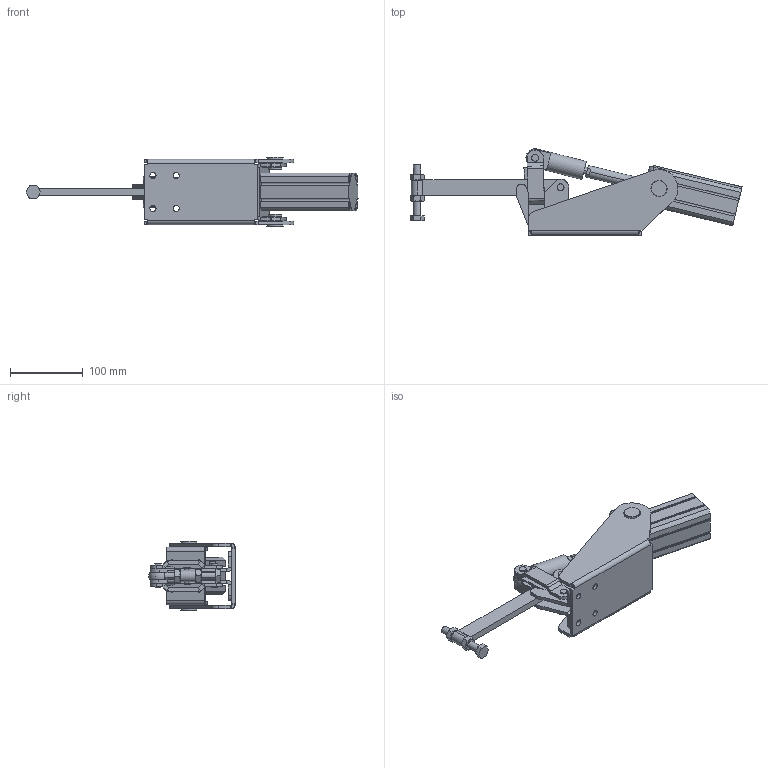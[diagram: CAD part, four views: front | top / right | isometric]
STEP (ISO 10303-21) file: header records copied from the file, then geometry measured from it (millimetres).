
FILE_DESCRIPTION (( 'STEP AP203' ), '1' );
FILE_NAME ('KF-111 DS P.STEP', '2014-08-28T17:31:28', ( 'Ricardo' ), ( '' ), 'SwSTEP 2.0', 'SolidWorks 2013', '' );
FILE_SCHEMA (( 'CONFIG_CONTROL_DESIGN' ));
Length unit declared in the file: millimetre
Products named in the file (21): 16.20071; 03.15005; 02.12010_Direita; HI_CD55B40-80(0)_BODY; 15.20029; 02.12010_Esquerda; HI_C55B40-80M(0)_ROD; 15.10101; 01.10168; CD55B40-80M_avan㌢do; 15.10062; 04.10003A_Direita; KF-111 DS P; 20.20005; 04.10003B_Direita; 11.50003; 04.20003; 12.50021; 06.50009; PSB-M10; 06.50010
Assembly tree (25 placements, depth 3):
  KF-111 DS P
    02.12010_Direita
    02.12010_Esquerda
    01.10168  x2
    04.10003A_Direita
    04.10003B_Direita
    04.20003
    06.50009  x2
    06.50010  x2
    03.15005
    15.20029
    15.10101
    15.10062
    PSB-M10
      20.20005
      11.50003  x2
      12.50021
    16.20071  x2
    CD55B40-80M_avan㌢do
      HI_CD55B40-80(0)_BODY
      HI_C55B40-80M(0)_ROD
Bounding box: 455.99 x 118.73 x 95.5 mm (x, y, z)
Volume: 591328.7 mm3; surface area: 238551.8 mm2
Topology: 23 solids, 23 shells, 632 faces, 1482 edges, 921 vertices
Faces by surface type: plane 283, cylinder 278, cone 68, bspline 2, sphere 1
Entity records: 18066 total; most frequent: DIRECTION 2903, CARTESIAN_POINT 2779, ORIENTED_EDGE 2522, EDGE_CURVE 1261, AXIS2_PLACEMENT_3D 1101, VERTEX_POINT 797, VECTOR 701, LINE 701
